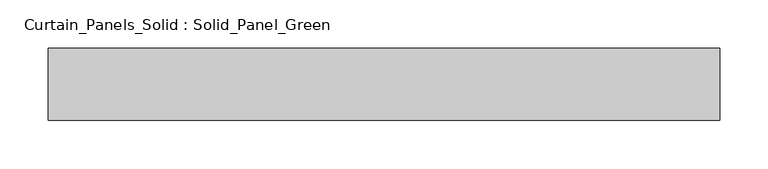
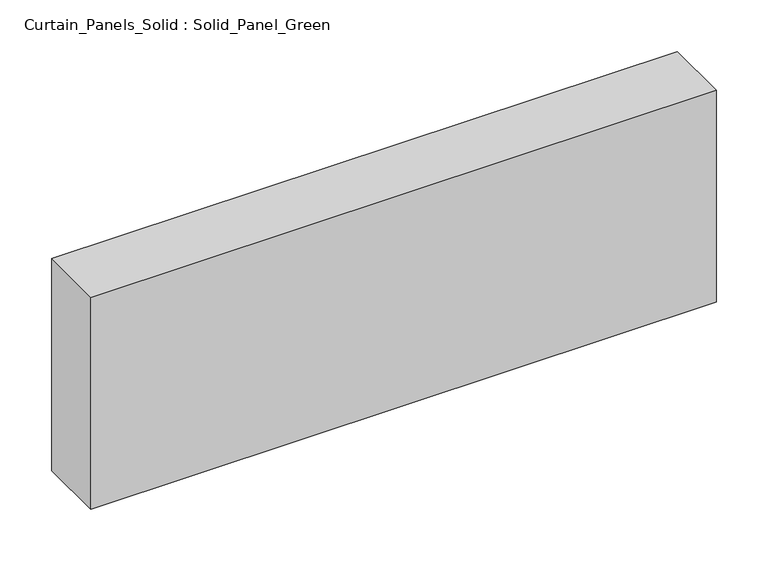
"""IFC4 building model written with IfcOpenShell, lengths in millimetres: plate geometry, Curtain_Panels_Solid : Solid_Panel_Green."""

from ifc_helpers import new_model, si_unit, origin, origin_with_axes, place, context, project, spatial, polyline, outline, extrude, source, transform, mapped, element, save


def curtain_panels_solid_solid_panel_green_97339be5(model_context):
    return source(origin(), model_context, "Body", "SweptSolid", [
        extrude(outline(polyline([(348.7500001, 25.0), (348.7500001, -50.0), (-348.7500001, -50.0), (-348.7500001, 25.0), (348.7500001, 25.0)])), origin_with_axes(), (0.0, 0.0, 1.0), 250.0),
    ])


if __name__ == "__main__":
    model = new_model("IFC4")
    model_context = context("Model", 3, world=origin())
    ifc_project = project(units=[si_unit("LENGTHUNIT", "METRE", prefix="MILLI")], contexts=[model_context])
    site = spatial("IfcSite", under=ifc_project)
    building = spatial("IfcBuilding", under=site)
    placement = place(None, origin())
    curtain_panels_solid_solid_panel_green_shape = curtain_panels_solid_solid_panel_green_97339be5(model_context)
    element("IfcPlate", 1, ObjectType="Curtain_Panels_Solid : Solid_Panel_Green", at=placement, inside=building, context=model_context, shape_type="MappedRepresentation", body=[
        mapped(curtain_panels_solid_solid_panel_green_shape, transform((0.0, 0.0, 0.0), x_axis=(1.0, 0.0, 0.0), y_axis=(0.0, 1.0, 0.0), z_axis=(0.0, 0.0, 1.0))),
    ])
    save(model, "model.ifc")
